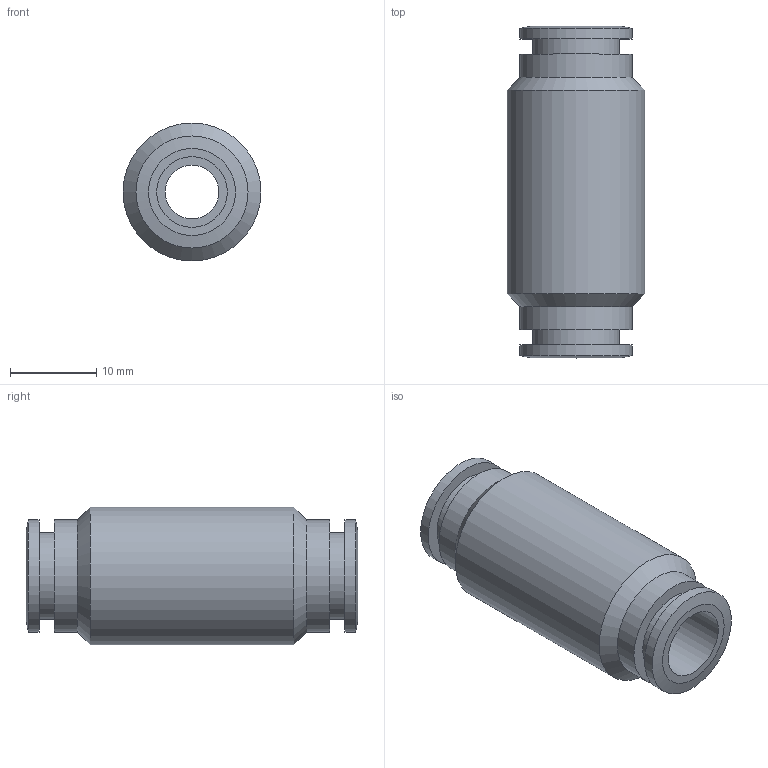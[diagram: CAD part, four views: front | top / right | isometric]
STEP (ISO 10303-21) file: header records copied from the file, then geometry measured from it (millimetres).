
FILE_DESCRIPTION((''),'2;1');
FILE_NAME('C:\Documents and Settings\rivolro1\Documenti\copia di Raccordi\PLASTICA\T10XX00\T100800.stp','2007-10-30T17:28:36',('Rivolro1'),(''),'Autodesk Inventor 2008','Autodesk Inventor 2008','');
FILE_SCHEMA(('AUTOMOTIVE_DESIGN { 1 0 10303 214 1 1 1 1 }'));
Length unit declared in the file: millimetre
Products named in the file (1): T100800
Bounding box: 16 x 38.5 x 16 mm (x, y, z)
Volume: 4686.4 mm3; surface area: 3194.8 mm2
Topology: 1 solids, 1 shells, 22 faces, 37 edges, 23 vertices
Faces by surface type: cylinder 8, plane 6, bspline 4, cone 4
Full cylindrical faces by diameter (mm): 6.2 x1, 10.1 x2, 13 x4, 16 x1
Entity records: 523 total; most frequent: CARTESIAN_POINT 107, DIRECTION 82, ORIENTED_EDGE 44, EDGE_LOOP 44, AXIS2_PLACEMENT_3D 41, VERTEX_POINT 22, CIRCLE 22, EDGE_CURVE 22
